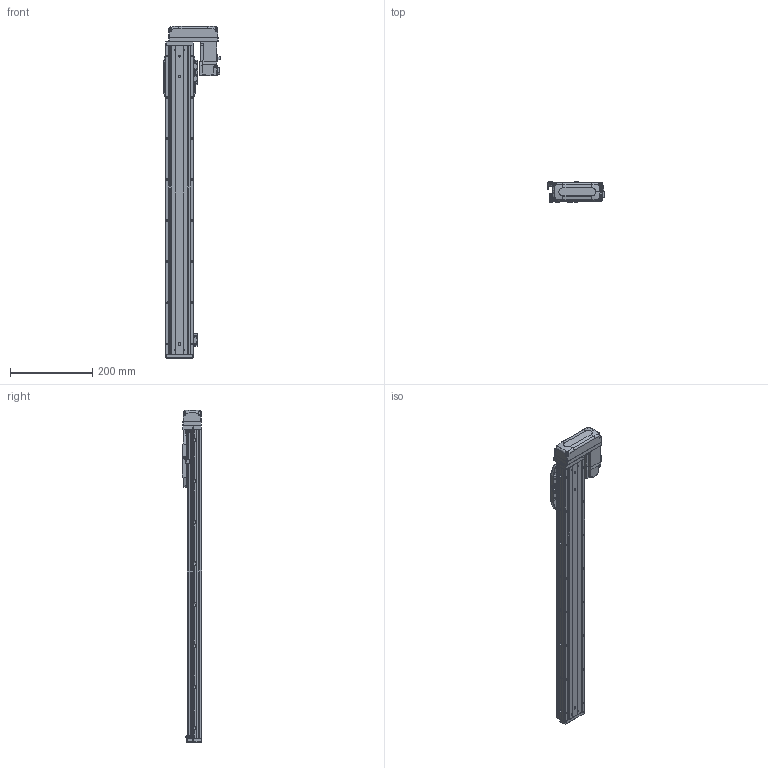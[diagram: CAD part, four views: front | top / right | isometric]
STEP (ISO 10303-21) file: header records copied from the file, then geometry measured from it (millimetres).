
FILE_DESCRIPTION (( 'STEP AP203' ), '1' );
FILE_NAME ('CTHA60-600-BL-M10-C4L.step', '2022-03-19T06:14:51', ( '微软用户' ), ( '微软中国' ), 'SwSTEP 2.0', 'SolidWorks 2020', '' );
FILE_SCHEMA (( 'CONFIG_CONTROL_DESIGN' ));
Length unit declared in the file: millimetre
Products named in the file (18): CTHA60-031; CTHA60-004; GBT77-2000 M3×3; CTHA60-006-1; CTHA60-005; GBT 70.1-M3℅6; CTHA60-033; GB¨uT 70.2-M3¡Á6_M3¡Á6; GBT 70.3-M3℅6; CTHA60-600-BL-M10-C4L; EE_SX911P_R; CTHA60-016; CTHA60-017; HG-KR13（三菱）; CTHA60-021; CTHA60-002; CTHA60-001_750; GBT 70.1-M4×16
Assembly tree (54 placements, depth 2):
  CTHA60-600-BL-M10-C4L
    CTHA60-001_750
    CTHA60-004
    CTHA60-005
    GB¨uT 70.2-M3¡Á6_M3¡Á6  x10
    EE_SX911P_R  x3
    CTHA60-017  x3
    CTHA60-021  x2
    GBT 70.1-M4×16  x10
    GBT77-2000 M3×3  x6
    GBT 70.1-M3℅6  x6
    GBT 70.3-M3℅6  x4
    CTHA60-016  x2
    HG-KR13（三菱）
    CTHA60-002
    CTHA60-031
    CTHA60-006-1
    CTHA60-033
Bounding box: 137.1 x 48 x 807 mm (x, y, z)
Volume: 1400774.8 mm3; surface area: 420457.4 mm2
Topology: 56 solids, 56 shells, 2534 faces, 6093 edges, 3757 vertices
Faces by surface type: plane 1461, cylinder 583, cone 342, torus 92, bspline 32, sphere 24
Entity records: 45657 total; most frequent: CARTESIAN_POINT 8810, DIRECTION 7056, ORIENTED_EDGE 6994, EDGE_CURVE 3497, VECTOR 2484, LINE 2484, AXIS2_PLACEMENT_3D 2286, VERTEX_POINT 2216
